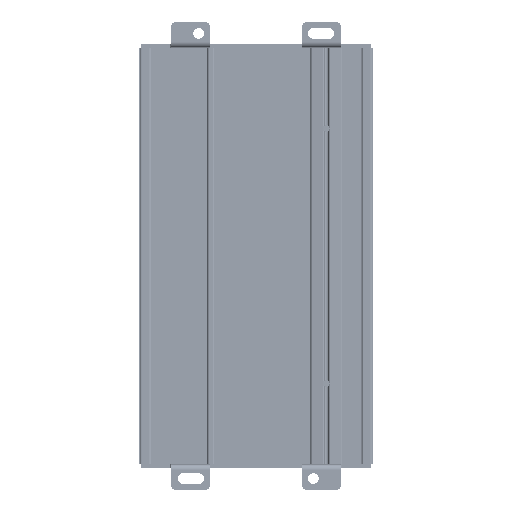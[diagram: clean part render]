
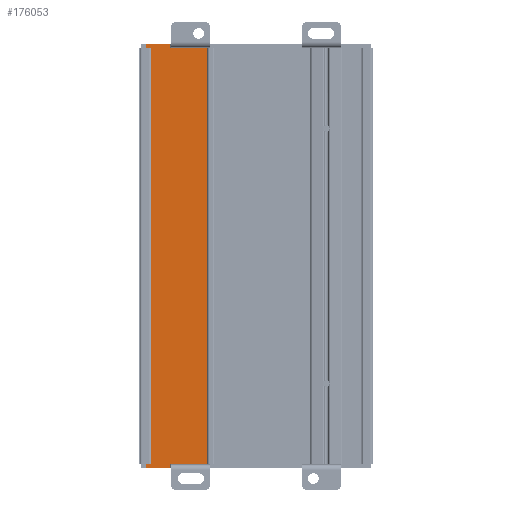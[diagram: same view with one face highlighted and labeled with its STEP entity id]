
A CAD part, front view. The second image highlights one B-rep face of the part: STEP entity #176053.
In plain terms, the highlighted planar face has unit normal (0, -1, 0).
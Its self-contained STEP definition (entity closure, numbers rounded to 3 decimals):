
#1099 = CARTESIAN_POINT ( 'NONE',  ( -43.2, 7.4, -103.25 ) ) ;
#1125 = ORIENTED_EDGE ( 'NONE', *, *, #98643, .F. ) ;
#1175 = CARTESIAN_POINT ( 'NONE',  ( -19.4, 7.4, -66.275 ) ) ;
#1555 = EDGE_CURVE ( 'NONE', #89476, #73036, #10792, .T. ) ;
#1990 = VECTOR ( 'NONE', #61214, 1000. ) ;
#3207 = LINE ( 'NONE', #16524, #1990 ) ;
#8849 = ORIENTED_EDGE ( 'NONE', *, *, #83267, .T. ) ;
#9393 = DIRECTION ( 'NONE',  ( 1., 0., 0. ) ) ;
#10792 = LINE ( 'NONE', #83039, #156444 ) ;
#15199 = ORIENTED_EDGE ( 'NONE', *, *, #183496, .F. ) ;
#15985 = CARTESIAN_POINT ( 'NONE',  ( 0., 7.4, -103.25 ) ) ;
#16524 = CARTESIAN_POINT ( 'NONE',  ( 0., 7.4, -104.75 ) ) ;
#18562 = DIRECTION ( 'NONE',  ( -1., 0., 0. ) ) ;
#19073 = CARTESIAN_POINT ( 'NONE',  ( -43.2, 7.4, -103.25 ) ) ;
#23439 = ORIENTED_EDGE ( 'NONE', *, *, #128869, .F. ) ;
#24179 = EDGE_CURVE ( 'NONE', #147828, #24993, #149250, .T. ) ;
#24322 = LINE ( 'NONE', #98418, #56182 ) ;
#24993 = VERTEX_POINT ( 'NONE', #120813 ) ;
#29356 = DIRECTION ( 'NONE',  ( 1., 0., 0. ) ) ;
#33676 = CARTESIAN_POINT ( 'NONE',  ( -41.15, 7.4, -103.25 ) ) ;
#35104 = CARTESIAN_POINT ( 'NONE',  ( -11.444, 7.4, 60.25 ) ) ;
#39111 = LINE ( 'NONE', #54316, #125170 ) ;
#40426 = DIRECTION ( 'NONE',  ( 0., 0., 1. ) ) ;
#42051 = VERTEX_POINT ( 'NONE', #158688 ) ;
#42197 = DIRECTION ( 'NONE',  ( 0., 0., 1. ) ) ;
#42665 = LINE ( 'NONE', #15985, #171572 ) ;
#52330 = CARTESIAN_POINT ( 'NONE',  ( -19.4, 7.4, 60.25 ) ) ;
#54316 = CARTESIAN_POINT ( 'NONE',  ( -33.9, 7.4, 61.75 ) ) ;
#54594 = LINE ( 'NONE', #110684, #135880 ) ;
#54733 = CARTESIAN_POINT ( 'NONE',  ( -41.15, 7.4, -66.275 ) ) ;
#55969 = VERTEX_POINT ( 'NONE', #52330 ) ;
#56182 = VECTOR ( 'NONE', #40426, 1000. ) ;
#58296 = ORIENTED_EDGE ( 'NONE', *, *, #154551, .T. ) ;
#58310 = VERTEX_POINT ( 'NONE', #77967 ) ;
#58744 = ORIENTED_EDGE ( 'NONE', *, *, #24179, .T. ) ;
#61214 = DIRECTION ( 'NONE',  ( 1., 0., 0. ) ) ;
#62684 = ORIENTED_EDGE ( 'NONE', *, *, #132029, .T. ) ;
#62821 = DIRECTION ( 'NONE',  ( 0., 0., -1. ) ) ;
#64966 = CARTESIAN_POINT ( 'NONE',  ( -19.4, 7.4, -103.25 ) ) ;
#73036 = VERTEX_POINT ( 'NONE', #134931 ) ;
#77967 = CARTESIAN_POINT ( 'NONE',  ( -43.2, 7.4, 60.25 ) ) ;
#78852 = DIRECTION ( 'NONE',  ( 0., 1., 0. ) ) ;
#82311 = LINE ( 'NONE', #54733, #122552 ) ;
#83039 = CARTESIAN_POINT ( 'NONE',  ( -50.6, 7.4, -103.25 ) ) ;
#83267 = EDGE_CURVE ( 'NONE', #55969, #42051, #166233, .T. ) ;
#85129 = DIRECTION ( 'NONE',  ( 0., 0., 1. ) ) ;
#89476 = VERTEX_POINT ( 'NONE', #64966 ) ;
#91206 = VECTOR ( 'NONE', #62821, 1000. ) ;
#92398 = VERTEX_POINT ( 'NONE', #33676 ) ;
#95910 = PLANE ( 'NONE',  #143322 ) ;
#96017 = LINE ( 'NONE', #153950, #186191 ) ;
#96966 = DIRECTION ( 'NONE',  ( -1., 0., 0. ) ) ;
#97396 = CARTESIAN_POINT ( 'NONE',  ( -33.9, 7.4, -104.75 ) ) ;
#98418 = CARTESIAN_POINT ( 'NONE',  ( -33.9, 7.4, -103.25 ) ) ;
#98643 = EDGE_CURVE ( 'NONE', #147828, #92398, #42665, .T. ) ;
#105576 = ORIENTED_EDGE ( 'NONE', *, *, #1555, .F. ) ;
#106375 = VERTEX_POINT ( 'NONE', #169094 ) ;
#107073 = VERTEX_POINT ( 'NONE', #97396 ) ;
#110456 = VECTOR ( 'NONE', #146569, 1000. ) ;
#110684 = CARTESIAN_POINT ( 'NONE',  ( -43.2, 7.4, 60.25 ) ) ;
#113659 = CARTESIAN_POINT ( 'NONE',  ( -43.4, 7.4, 55.25 ) ) ;
#120813 = CARTESIAN_POINT ( 'NONE',  ( -43.2, 7.4, -104.75 ) ) ;
#122552 = VECTOR ( 'NONE', #85129, 1000. ) ;
#123799 = EDGE_CURVE ( 'NONE', #106375, #171648, #96017, .T. ) ;
#125170 = VECTOR ( 'NONE', #184488, 1000. ) ;
#125991 = EDGE_CURVE ( 'NONE', #92398, #130934, #82311, .T. ) ;
#126636 = EDGE_CURVE ( 'NONE', #55969, #89476, #144699, .T. ) ;
#128869 = EDGE_CURVE ( 'NONE', #130934, #58310, #149683, .T. ) ;
#130934 = VERTEX_POINT ( 'NONE', #156971 ) ;
#132029 = EDGE_CURVE ( 'NONE', #24993, #107073, #3207, .T. ) ;
#132062 = CARTESIAN_POINT ( 'NONE',  ( -43.2, 7.4, 61.75 ) ) ;
#134931 = CARTESIAN_POINT ( 'NONE',  ( -33.9, 7.4, -103.25 ) ) ;
#135880 = VECTOR ( 'NONE', #42197, 1000. ) ;
#139403 = ORIENTED_EDGE ( 'NONE', *, *, #174398, .T. ) ;
#143322 = AXIS2_PLACEMENT_3D ( 'NONE', #113659, #78852, #9393 ) ;
#143839 = ORIENTED_EDGE ( 'NONE', *, *, #126636, .F. ) ;
#144699 = LINE ( 'NONE', #1175, #110456 ) ;
#146569 = DIRECTION ( 'NONE',  ( 0., 0., -1. ) ) ;
#147828 = VERTEX_POINT ( 'NONE', #1099 ) ;
#149250 = LINE ( 'NONE', #19073, #91206 ) ;
#149683 = LINE ( 'NONE', #150632, #180853 ) ;
#150366 = VECTOR ( 'NONE', #170861, 1000. ) ;
#150632 = CARTESIAN_POINT ( 'NONE',  ( -43.4, 7.4, 60.25 ) ) ;
#153950 = CARTESIAN_POINT ( 'NONE',  ( 0., 7.4, 61.75 ) ) ;
#154551 = EDGE_CURVE ( 'NONE', #107073, #73036, #24322, .T. ) ;
#156444 = VECTOR ( 'NONE', #169488, 1000. ) ;
#156971 = CARTESIAN_POINT ( 'NONE',  ( -41.15, 7.4, 60.25 ) ) ;
#158688 = CARTESIAN_POINT ( 'NONE',  ( -33.9, 7.4, 60.25 ) ) ;
#160061 = ORIENTED_EDGE ( 'NONE', *, *, #123799, .T. ) ;
#166233 = LINE ( 'NONE', #35104, #150366 ) ;
#169094 = CARTESIAN_POINT ( 'NONE',  ( -33.9, 7.4, 61.75 ) ) ;
#169488 = DIRECTION ( 'NONE',  ( -1., 0., 0. ) ) ;
#170861 = DIRECTION ( 'NONE',  ( -1., 0., 0. ) ) ;
#171572 = VECTOR ( 'NONE', #29356, 1000. ) ;
#171648 = VERTEX_POINT ( 'NONE', #132062 ) ;
#172007 = EDGE_LOOP ( 'NONE', ( #23439, #180195, #1125, #58744, #62684, #58296, #105576, #143839, #8849, #139403, #160061, #15199 ) ) ;
#172531 = FACE_OUTER_BOUND ( 'NONE', #172007, .T. ) ;
#174398 = EDGE_CURVE ( 'NONE', #42051, #106375, #39111, .T. ) ;
#176053 = ADVANCED_FACE ( 'NONE', ( #172531 ), #95910, .F. ) ;
#180195 = ORIENTED_EDGE ( 'NONE', *, *, #125991, .F. ) ;
#180853 = VECTOR ( 'NONE', #18562, 1000. ) ;
#183496 = EDGE_CURVE ( 'NONE', #58310, #171648, #54594, .T. ) ;
#184488 = DIRECTION ( 'NONE',  ( 0., 0., 1. ) ) ;
#186191 = VECTOR ( 'NONE', #96966, 1000. ) ;
